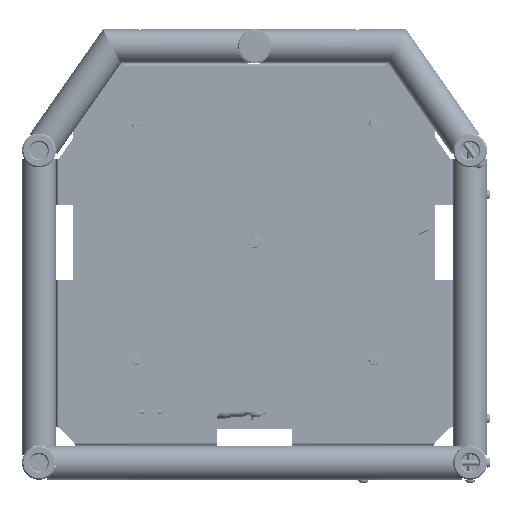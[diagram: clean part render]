
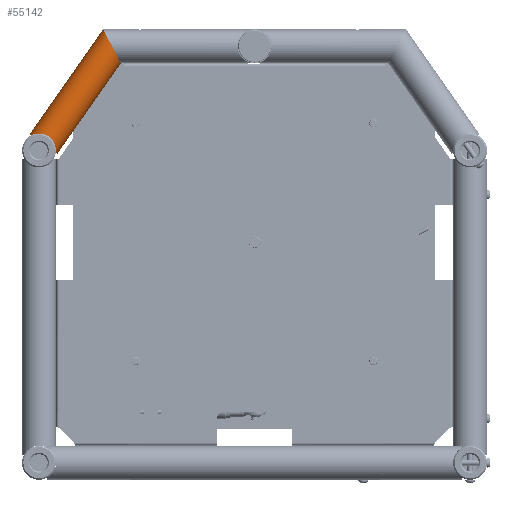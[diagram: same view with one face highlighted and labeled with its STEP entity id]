
A CAD part, front view. The second image highlights one B-rep face of the part: STEP entity #55142.
In plain terms, the highlighted cylindrical face has radius 25 mm (diameter 50 mm), a full revolution.
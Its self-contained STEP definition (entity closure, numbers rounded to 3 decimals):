
#152=ELLIPSE('',#58618,28.185,25.);
#159=ELLIPSE('',#58639,35.355,25.);
#160=ELLIPSE('',#58640,35.355,25.);
#2649=CYLINDRICAL_SURFACE('',#58638,25.);
#14699=ORIENTED_EDGE('',*,*,#23827,.F.);
#14700=ORIENTED_EDGE('',*,*,#23852,.T.);
#14701=ORIENTED_EDGE('',*,*,#23837,.F.);
#14702=ORIENTED_EDGE('',*,*,#23853,.T.);
#14703=ORIENTED_EDGE('',*,*,#23834,.T.);
#23827=EDGE_CURVE('',#29021,#29021,#152,.T.);
#23834=EDGE_CURVE('',#29028,#29029,#31852,.T.);
#23837=EDGE_CURVE('',#29031,#29032,#31853,.T.);
#23852=EDGE_CURVE('',#29029,#29032,#159,.T.);
#23853=EDGE_CURVE('',#29031,#29028,#160,.T.);
#29021=VERTEX_POINT('',#86363);
#29028=VERTEX_POINT('',#86378);
#29029=VERTEX_POINT('',#86379);
#29031=VERTEX_POINT('',#86385);
#29032=VERTEX_POINT('',#86386);
#31852=CIRCLE('',#58624,25.);
#31853=CIRCLE('',#58626,25.);
#34552=EDGE_LOOP('',(#14699));
#34553=EDGE_LOOP('',(#14700,#14701,#14702,#14703));
#37629=FACE_BOUND('',#34552,.T.);
#37630=FACE_BOUND('',#34553,.T.);
#55142=ADVANCED_FACE('',(#37629,#37630),#2649,.T.);
#58618=AXIS2_PLACEMENT_3D('',#86362,#66086,#66087);
#58624=AXIS2_PLACEMENT_3D('',#86377,#66100,#66101);
#58626=AXIS2_PLACEMENT_3D('',#86384,#66106,#66107);
#58638=AXIS2_PLACEMENT_3D('',#86751,#66136,#66137);
#58639=AXIS2_PLACEMENT_3D('',#86752,#66138,#66139);
#58640=AXIS2_PLACEMENT_3D('',#86753,#66140,#66141);
#66086=DIRECTION('',(0.887,0.,-0.462));
#66087=DIRECTION('',(-0.462,0.,-0.887));
#66100=DIRECTION('',(0.574,0.,-0.819));
#66101=DIRECTION('',(-0.819,0.,-0.574));
#66106=DIRECTION('',(-0.574,0.,0.819));
#66107=DIRECTION('',(0.819,0.,0.574));
#66136=DIRECTION('',(0.574,0.,-0.819));
#66137=DIRECTION('',(-0.819,0.,-0.574));
#66138=DIRECTION('',(0.406,-0.707,-0.579));
#66139=DIRECTION('',(0.406,0.707,-0.579));
#66140=DIRECTION('',(0.406,0.707,-0.579));
#66141=DIRECTION('',(0.406,-0.707,-0.579));
#86362=CARTESIAN_POINT('',(-210.,0.,0.));
#86363=CARTESIAN_POINT('',(-223.014,0.,-25.));
#86377=CARTESIAN_POINT('',(-310.689,0.,143.799));
#86378=CARTESIAN_POINT('',(-328.711,-11.874,131.18));
#86379=CARTESIAN_POINT('',(-328.711,11.874,131.18));
#86384=CARTESIAN_POINT('',(-310.689,0.,143.799));
#86385=CARTESIAN_POINT('',(-292.668,-11.874,156.418));
#86386=CARTESIAN_POINT('',(-292.668,11.874,156.418));
#86751=CARTESIAN_POINT('',(-317.5,0.,153.526));
#86752=CARTESIAN_POINT('',(-317.5,0.,153.526));
#86753=CARTESIAN_POINT('',(-317.5,0.,153.526));
